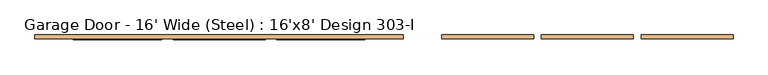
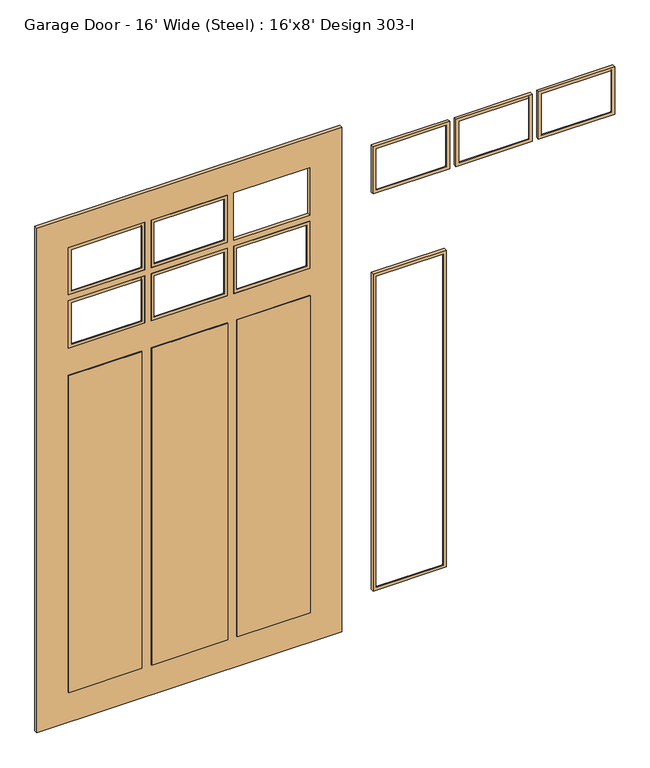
"""IFC4 building model written with IfcOpenShell, lengths in millimetres: door geometry, Garage Door - 16' Wide (Steel) : 16'x8' Design 303-I."""

from ifc_helpers import new_model, si_unit, frame, origin, place, context, project, spatial, polyline, ellipse_curve, outline, extrude, source, transform, mapped, element, save
from ifc_brep_helpers import plane_surface, cylinder_surface, advanced_brep


def garage_door_16_wide_steel_16_x8_design_303_i_b9bc2bef(model_context):
    return source(origin(), model_context, "Body", "SolidModel", [
        advanced_brep(
        [(758.8236908, -107.15625, 2003.4236908), (758.8236908, -107.15625, 1809.7513092), (749.2986908, -116.68125, 1819.2763092), (749.2986908, -116.68125, 1993.8986908), (758.8236908, -103.98125, 2003.4236908), (758.8236908, -103.98125, 1809.7513092), (761.9986908, -116.68125, 2006.5986908), (761.9986908, -116.68125, 1806.5763092), (761.9986908, -103.98125, 1806.5763092), (761.9986908, -103.98125, 2006.5986908), (460.3763092, -107.15625, 1809.7513092), (469.9013092, -116.68125, 1819.2763092), (460.3763092, -103.98125, 1809.7513092), (457.2013092, -116.68125, 1806.5763092), (457.2013092, -103.98125, 1806.5763092), (460.3763092, -107.15625, 2003.4236908), (469.9013092, -116.68125, 1993.8986908), (460.3763092, -103.98125, 2003.4236908), (457.2013092, -116.68125, 2006.5986908), (457.2013092, -103.98125, 2006.5986908)],
        [
            (0, 1),
            (1, 2, ellipse_curve(frame((758.8236908, -116.68125, 1809.7513092), z_axis=(0.7071067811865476, 0.0, 0.7071067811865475), x_axis=(-0.7071067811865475, 0.0, 0.7071067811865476)), 13.4703842, 9.525)),
            (2, 3),
            (3, 0, ellipse_curve(frame((758.8236908, -116.68125, 2003.4236908), z_axis=(0.7071067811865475, 0.0, -0.7071067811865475), x_axis=(0.7071067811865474, 0.0, 0.7071067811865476)), 13.4703842, 9.525)),
            (4, 5),
            (5, 1),
            (0, 4),
            (6, 7),
            (7, 8),
            (8, 9),
            (9, 6),
            (1, 10),
            (10, 11, ellipse_curve(frame((460.3763092, -116.68125, 1809.7513092), z_axis=(0.7071067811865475, 0.0, -0.7071067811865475), x_axis=(0.7071067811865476, 0.0, 0.7071067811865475)), 13.4703842, 9.525)),
            (11, 2),
            (5, 12),
            (12, 10),
            (7, 13),
            (13, 14),
            (14, 8),
            (10, 15),
            (15, 16, ellipse_curve(frame((460.3763092, -116.68125, 2003.4236908), z_axis=(-0.7071067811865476, 0.0, -0.7071067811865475), x_axis=(0.7071067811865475, 0.0, -0.7071067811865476)), 13.4703842, 9.525)),
            (16, 11),
            (12, 17),
            (17, 15),
            (13, 18),
            (18, 19),
            (19, 14),
            (6, 18),
            (16, 3),
            (15, 0),
            (17, 4),
            (19, 9),
        ],
        [
            cylinder_surface(frame((758.8236908, -116.68125, 2006.6), z_axis=(0.0, 0.0, 1.0), x_axis=(1.0, 0.0, 0.0)), 9.525),
            plane_surface(frame((758.8236908, -107.15625, 2003.4236908), z_axis=(-1.0, 0.0, 0.0), x_axis=(0.0, 0.0, -1.0))),
            plane_surface(frame((761.9986908, -103.98125, 2006.5986908), z_axis=(1.0, 0.0, 0.0), x_axis=(0.0, 0.0, -1.0))),
            cylinder_surface(frame((762.0, -116.68125, 1809.7513092), z_axis=(1.0, 0.0, 0.0), x_axis=(0.0, 0.0, -1.0)), 9.525),
            plane_surface(frame((758.8236908, -107.15625, 1809.7513092), z_axis=(0.0, 0.0, 1.0), x_axis=(-1.0, 0.0, 0.0))),
            plane_surface(frame((761.9986908, -103.98125, 1806.5763092), z_axis=(0.0, 0.0, -1.0), x_axis=(-1.0, 0.0, 0.0))),
            cylinder_surface(frame((460.3763092, -116.68125, 1806.575), z_axis=(0.0, 0.0, -1.0), x_axis=(-1.0, 0.0, 0.0)), 9.525),
            plane_surface(frame((460.3763092, -107.15625, 1809.7513092), z_axis=(1.0, 0.0, 0.0), x_axis=(0.0, 0.0, 1.0))),
            plane_surface(frame((457.2013092, -103.98125, 1806.5763092), z_axis=(-1.0, 0.0, 0.0), x_axis=(0.0, 0.0, 1.0))),
            plane_surface(frame((457.2013092, -116.68125, 2006.5986908), z_axis=(0.0, -1.0, 0.0), x_axis=(1.0, 0.0, 0.0))),
            cylinder_surface(frame((457.2, -116.68125, 2003.4236908), z_axis=(-1.0, 0.0, 0.0), x_axis=(0.0, 0.0, 1.0)), 9.525),
            plane_surface(frame((460.3763092, -107.15625, 2003.4236908), z_axis=(0.0, 0.0, -1.0), x_axis=(1.0, 0.0, 0.0))),
            plane_surface(frame((460.3763092, -103.98125, 2003.4236908), z_axis=(0.0, 1.0, 0.0), x_axis=(1.0, 0.0, 0.0))),
            plane_surface(frame((457.2013092, -103.98125, 2006.5986908), z_axis=(0.0, 0.0, 1.0), x_axis=(1.0, 0.0, 0.0))),
        ],
        [
            (0, [[1, 2, 3, 4]]),
            (1, [[5, 6, -1, 7]]),
            (2, [[8, 9, 10, 11]]),
            (3, [[12, 13, 14, -2]]),
            (4, [[15, 16, -12, -6]]),
            (5, [[17, 18, 19, -9]]),
            (6, [[20, 21, 22, -13]]),
            (7, [[23, 24, -20, -16]]),
            (8, [[25, 26, 27, -18]]),
            (9, [[-8, 28, -25, -17], [-3, -14, -22, 29]]),
            (10, [[30, -4, -29, -21]]),
            (11, [[31, -7, -30, -24]]),
            (12, [[-10, -19, -27, 32], [-5, -31, -23, -15]]),
            (13, [[-28, -11, -32, -26]]),
        ],
    ),
        advanced_brep(
        [(428.6276183, -107.15625, 2003.425), (428.6276183, -107.15625, 1809.7473817), (419.1026183, -116.68125, 1819.2723817), (419.1026183, -116.68125, 1993.9), (428.6276183, -103.98125, 2003.425), (428.6276183, -103.98125, 1809.7473817), (431.8026183, -116.68125, 2006.6), (431.8026183, -116.68125, 1806.5723817), (431.8026183, -103.98125, 1806.5723817), (431.8026183, -103.98125, 2006.6), (130.175, -107.15625, 1809.7473817), (139.7, -116.68125, 1819.2723817), (130.175, -103.98125, 1809.7473817), (127.0, -116.68125, 1806.5723817), (127.0, -103.98125, 1806.5723817), (130.175, -107.15625, 2003.425), (139.7, -116.68125, 1993.9), (130.175, -103.98125, 2003.425), (127.0, -116.68125, 2006.6), (127.0, -103.98125, 2006.6)],
        [
            (0, 1),
            (1, 2, ellipse_curve(frame((428.6276183, -116.68125, 1809.7473817), z_axis=(0.7071067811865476, 0.0, 0.7071067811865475), x_axis=(-0.7071067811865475, 0.0, 0.7071067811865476)), 13.4703842, 9.525)),
            (2, 3),
            (3, 0, ellipse_curve(frame((428.6276183, -116.68125, 2003.425), z_axis=(0.7071067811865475, 0.0, -0.7071067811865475), x_axis=(0.7071067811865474, 0.0, 0.7071067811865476)), 13.4703842, 9.525)),
            (4, 5),
            (5, 1),
            (0, 4),
            (6, 7),
            (7, 8),
            (8, 9),
            (9, 6),
            (1, 10),
            (10, 11, ellipse_curve(frame((130.175, -116.68125, 1809.7473817), z_axis=(0.7071067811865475, 0.0, -0.7071067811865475), x_axis=(0.7071067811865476, 0.0, 0.7071067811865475)), 13.4703842, 9.525)),
            (11, 2),
            (5, 12),
            (12, 10),
            (7, 13),
            (13, 14),
            (14, 8),
            (10, 15),
            (15, 16, ellipse_curve(frame((130.175, -116.68125, 2003.425), z_axis=(-0.7071067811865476, 0.0, -0.7071067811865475), x_axis=(0.7071067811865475, 0.0, -0.7071067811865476)), 13.4703842, 9.525)),
            (16, 11),
            (12, 17),
            (17, 15),
            (13, 18),
            (18, 19),
            (19, 14),
            (6, 18),
            (16, 3),
            (15, 0),
            (17, 4),
            (19, 9),
        ],
        [
            cylinder_surface(frame((428.6276183, -116.68125, 2006.5973817), z_axis=(0.0, 0.0, 1.0), x_axis=(1.0, 0.0, 0.0)), 9.525),
            plane_surface(frame((428.6276183, -107.15625, 2003.425), z_axis=(-1.0, 0.0, 0.0), x_axis=(0.0, 0.0, -1.0))),
            plane_surface(frame((431.8026183, -103.98125, 2006.6), z_axis=(1.0, 0.0, 0.0), x_axis=(0.0, 0.0, -1.0))),
            cylinder_surface(frame((431.8, -116.68125, 1809.7473817), z_axis=(1.0, 0.0, 0.0), x_axis=(0.0, 0.0, -1.0)), 9.525),
            plane_surface(frame((428.6276183, -107.15625, 1809.7473817), z_axis=(0.0, 0.0, 1.0), x_axis=(-1.0, 0.0, 0.0))),
            plane_surface(frame((431.8026183, -103.98125, 1806.5723817), z_axis=(0.0, 0.0, -1.0), x_axis=(-1.0, 0.0, 0.0))),
            cylinder_surface(frame((130.175, -116.68125, 1806.575), z_axis=(0.0, 0.0, -1.0), x_axis=(-1.0, 0.0, 0.0)), 9.525),
            plane_surface(frame((130.175, -107.15625, 1809.7473817), z_axis=(1.0, 0.0, 0.0), x_axis=(0.0, 0.0, 1.0))),
            plane_surface(frame((127.0, -103.98125, 1806.5723817), z_axis=(-1.0, 0.0, 0.0), x_axis=(0.0, 0.0, 1.0))),
            plane_surface(frame((127.0, -116.68125, 2006.6), z_axis=(0.0, -1.0, 0.0), x_axis=(1.0, 0.0, 0.0))),
            cylinder_surface(frame((127.0026183, -116.68125, 2003.425), z_axis=(-1.0, 0.0, 0.0), x_axis=(0.0, 0.0, 1.0)), 9.525),
            plane_surface(frame((130.175, -107.15625, 2003.425), z_axis=(0.0, 0.0, -1.0), x_axis=(1.0, 0.0, 0.0))),
            plane_surface(frame((130.175, -103.98125, 2003.425), z_axis=(0.0, 1.0, 0.0), x_axis=(1.0, 0.0, 0.0))),
            plane_surface(frame((127.0, -103.98125, 2006.6), z_axis=(0.0, 0.0, 1.0), x_axis=(1.0, 0.0, 0.0))),
        ],
        [
            (0, [[1, 2, 3, 4]]),
            (1, [[5, 6, -1, 7]]),
            (2, [[8, 9, 10, 11]]),
            (3, [[12, 13, 14, -2]]),
            (4, [[15, 16, -12, -6]]),
            (5, [[17, 18, 19, -9]]),
            (6, [[20, 21, 22, -13]]),
            (7, [[23, 24, -20, -16]]),
            (8, [[25, 26, 27, -18]]),
            (9, [[-8, 28, -25, -17], [-3, -14, -22, 29]]),
            (10, [[30, -4, -29, -21]]),
            (11, [[31, -7, -30, -24]]),
            (12, [[-10, -19, -27, 32], [-5, -31, -23, -15]]),
            (13, [[-28, -11, -32, -26]]),
        ],
    ),
        advanced_brep(
        [(1089.025, -107.15625, 1778.0), (1089.025, -107.15625, 1584.325), (1079.5, -116.68125, 1593.85), (1079.5, -116.68125, 1768.475), (1089.025, -103.98125, 1778.0), (1089.025, -103.98125, 1584.325), (1092.2, -116.68125, 1781.175), (1092.2, -116.68125, 1581.15), (1092.2, -103.98125, 1581.15), (1092.2, -103.98125, 1781.175), (790.575, -107.15625, 1584.325), (800.1, -116.68125, 1593.85), (790.575, -103.98125, 1584.325), (787.4, -116.68125, 1581.15), (787.4, -103.98125, 1581.15), (790.575, -107.15625, 1778.0), (800.1, -116.68125, 1768.475), (790.575, -103.98125, 1778.0), (787.4, -116.68125, 1781.175), (787.4, -103.98125, 1781.175)],
        [
            (0, 1),
            (1, 2, ellipse_curve(frame((1089.025, -116.68125, 1584.325), z_axis=(0.7071067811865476, 0.0, 0.7071067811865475), x_axis=(-0.7071067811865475, 0.0, 0.7071067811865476)), 13.4703842, 9.525)),
            (2, 3),
            (3, 0, ellipse_curve(frame((1089.025, -116.68125, 1778.0), z_axis=(0.7071067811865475, 0.0, -0.7071067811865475), x_axis=(0.7071067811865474, 0.0, 0.7071067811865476)), 13.4703842, 9.525)),
            (4, 5),
            (5, 1),
            (0, 4),
            (6, 7),
            (7, 8),
            (8, 9),
            (9, 6),
            (1, 10),
            (10, 11, ellipse_curve(frame((790.575, -116.68125, 1584.325), z_axis=(0.7071067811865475, 0.0, -0.7071067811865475), x_axis=(0.7071067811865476, 0.0, 0.7071067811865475)), 13.4703842, 9.525)),
            (11, 2),
            (5, 12),
            (12, 10),
            (7, 13),
            (13, 14),
            (14, 8),
            (10, 15),
            (15, 16, ellipse_curve(frame((790.575, -116.68125, 1778.0), z_axis=(-0.7071067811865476, 0.0, -0.7071067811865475), x_axis=(0.7071067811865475, 0.0, -0.7071067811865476)), 13.4703842, 9.525)),
            (16, 11),
            (12, 17),
            (17, 15),
            (13, 18),
            (18, 19),
            (19, 14),
            (6, 18),
            (16, 3),
            (15, 0),
            (17, 4),
            (19, 9),
        ],
        [
            cylinder_surface(frame((1089.025, -116.68125, 1781.175), z_axis=(0.0, 0.0, 1.0), x_axis=(1.0, 0.0, 0.0)), 9.525),
            plane_surface(frame((1089.025, -107.15625, 1778.0), z_axis=(-1.0, 0.0, 0.0), x_axis=(0.0, 0.0, -1.0))),
            plane_surface(frame((1092.2, -103.98125, 1781.175), z_axis=(1.0, 0.0, 0.0), x_axis=(0.0, 0.0, -1.0))),
            cylinder_surface(frame((1092.2, -116.68125, 1584.325), z_axis=(1.0, 0.0, 0.0), x_axis=(0.0, 0.0, -1.0)), 9.525),
            plane_surface(frame((1089.025, -107.15625, 1584.325), z_axis=(0.0, 0.0, 1.0), x_axis=(-1.0, 0.0, 0.0))),
            plane_surface(frame((1092.2, -103.98125, 1581.15), z_axis=(0.0, 0.0, -1.0), x_axis=(-1.0, 0.0, 0.0))),
            cylinder_surface(frame((790.575, -116.68125, 1581.15), z_axis=(0.0, 0.0, -1.0), x_axis=(-1.0, 0.0, 0.0)), 9.525),
            plane_surface(frame((790.575, -107.15625, 1584.325), z_axis=(1.0, 0.0, 0.0), x_axis=(0.0, 0.0, 1.0))),
            plane_surface(frame((787.4, -103.98125, 1581.15), z_axis=(-1.0, 0.0, 0.0), x_axis=(0.0, 0.0, 1.0))),
            plane_surface(frame((787.4, -116.68125, 1781.175), z_axis=(0.0, -1.0, 0.0), x_axis=(1.0, 0.0, 0.0))),
            cylinder_surface(frame((787.4, -116.68125, 1778.0), z_axis=(-1.0, 0.0, 0.0), x_axis=(0.0, 0.0, 1.0)), 9.525),
            plane_surface(frame((790.575, -107.15625, 1778.0), z_axis=(0.0, 0.0, -1.0), x_axis=(1.0, 0.0, 0.0))),
            plane_surface(frame((790.575, -103.98125, 1778.0), z_axis=(0.0, 1.0, 0.0), x_axis=(1.0, 0.0, 0.0))),
            plane_surface(frame((787.4, -103.98125, 1781.175), z_axis=(0.0, 0.0, 1.0), x_axis=(1.0, 0.0, 0.0))),
        ],
        [
            (0, [[1, 2, 3, 4]]),
            (1, [[5, 6, -1, 7]]),
            (2, [[8, 9, 10, 11]]),
            (3, [[12, 13, 14, -2]]),
            (4, [[15, 16, -12, -6]]),
            (5, [[17, 18, 19, -9]]),
            (6, [[20, 21, 22, -13]]),
            (7, [[23, 24, -20, -16]]),
            (8, [[25, 26, 27, -18]]),
            (9, [[-8, 28, -25, -17], [-3, -14, -22, 29]]),
            (10, [[30, -4, -29, -21]]),
            (11, [[31, -7, -30, -24]]),
            (12, [[-10, -19, -27, 32], [-5, -31, -23, -15]]),
            (13, [[-28, -11, -32, -26]]),
        ],
    ),
        advanced_brep(
        [(758.825, -107.15625, 1778.0), (758.825, -107.15625, 1584.325), (749.3, -116.68125, 1593.85), (749.3, -116.68125, 1768.475), (758.825, -103.98125, 1778.0), (758.825, -103.98125, 1584.325), (762.0, -116.68125, 1781.175), (762.0, -116.68125, 1581.15), (762.0, -103.98125, 1581.15), (762.0, -103.98125, 1781.175), (460.375, -107.15625, 1584.325), (469.9, -116.68125, 1593.85), (460.375, -103.98125, 1584.325), (457.2, -116.68125, 1581.15), (457.2, -103.98125, 1581.15), (460.375, -107.15625, 1778.0), (469.9, -116.68125, 1768.475), (460.375, -103.98125, 1778.0), (457.2, -116.68125, 1781.175), (457.2, -103.98125, 1781.175)],
        [
            (0, 1),
            (1, 2, ellipse_curve(frame((758.825, -116.68125, 1584.325), z_axis=(0.7071067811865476, 0.0, 0.7071067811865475), x_axis=(-0.7071067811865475, 0.0, 0.7071067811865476)), 13.4703842, 9.525)),
            (2, 3),
            (3, 0, ellipse_curve(frame((758.825, -116.68125, 1778.0), z_axis=(0.7071067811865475, 0.0, -0.7071067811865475), x_axis=(0.7071067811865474, 0.0, 0.7071067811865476)), 13.4703842, 9.525)),
            (4, 5),
            (5, 1),
            (0, 4),
            (6, 7),
            (7, 8),
            (8, 9),
            (9, 6),
            (1, 10),
            (10, 11, ellipse_curve(frame((460.375, -116.68125, 1584.325), z_axis=(0.7071067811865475, 0.0, -0.7071067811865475), x_axis=(0.7071067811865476, 0.0, 0.7071067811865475)), 13.4703842, 9.525)),
            (11, 2),
            (5, 12),
            (12, 10),
            (7, 13),
            (13, 14),
            (14, 8),
            (10, 15),
            (15, 16, ellipse_curve(frame((460.375, -116.68125, 1778.0), z_axis=(-0.7071067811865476, 0.0, -0.7071067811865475), x_axis=(0.7071067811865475, 0.0, -0.7071067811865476)), 13.4703842, 9.525)),
            (16, 11),
            (12, 17),
            (17, 15),
            (13, 18),
            (18, 19),
            (19, 14),
            (6, 18),
            (16, 3),
            (15, 0),
            (17, 4),
            (19, 9),
        ],
        [
            cylinder_surface(frame((758.825, -116.68125, 1781.175), z_axis=(0.0, 0.0, 1.0), x_axis=(1.0, 0.0, 0.0)), 9.525),
            plane_surface(frame((758.825, -107.15625, 1778.0), z_axis=(-1.0, 0.0, 0.0), x_axis=(0.0, 0.0, -1.0))),
            plane_surface(frame((762.0, -103.98125, 1781.175), z_axis=(1.0, 0.0, 0.0), x_axis=(0.0, 0.0, -1.0))),
            cylinder_surface(frame((762.0, -116.68125, 1584.325), z_axis=(1.0, 0.0, 0.0), x_axis=(0.0, 0.0, -1.0)), 9.525),
            plane_surface(frame((758.825, -107.15625, 1584.325), z_axis=(0.0, 0.0, 1.0), x_axis=(-1.0, 0.0, 0.0))),
            plane_surface(frame((762.0, -103.98125, 1581.15), z_axis=(0.0, 0.0, -1.0), x_axis=(-1.0, 0.0, 0.0))),
            cylinder_surface(frame((460.375, -116.68125, 1581.15), z_axis=(0.0, 0.0, -1.0), x_axis=(-1.0, 0.0, 0.0)), 9.525),
            plane_surface(frame((460.375, -107.15625, 1584.325), z_axis=(1.0, 0.0, 0.0), x_axis=(0.0, 0.0, 1.0))),
            plane_surface(frame((457.2, -103.98125, 1581.15), z_axis=(-1.0, 0.0, 0.0), x_axis=(0.0, 0.0, 1.0))),
            plane_surface(frame((457.2, -116.68125, 1781.175), z_axis=(0.0, -1.0, 0.0), x_axis=(1.0, 0.0, 0.0))),
            cylinder_surface(frame((457.2, -116.68125, 1778.0), z_axis=(-1.0, 0.0, 0.0), x_axis=(0.0, 0.0, 1.0)), 9.525),
            plane_surface(frame((460.375, -107.15625, 1778.0), z_axis=(0.0, 0.0, -1.0), x_axis=(1.0, 0.0, 0.0))),
            plane_surface(frame((460.375, -103.98125, 1778.0), z_axis=(0.0, 1.0, 0.0), x_axis=(1.0, 0.0, 0.0))),
            plane_surface(frame((457.2, -103.98125, 1781.175), z_axis=(0.0, 0.0, 1.0), x_axis=(1.0, 0.0, 0.0))),
        ],
        [
            (0, [[1, 2, 3, 4]]),
            (1, [[5, 6, -1, 7]]),
            (2, [[8, 9, 10, 11]]),
            (3, [[12, 13, 14, -2]]),
            (4, [[15, 16, -12, -6]]),
            (5, [[17, 18, 19, -9]]),
            (6, [[20, 21, 22, -13]]),
            (7, [[23, 24, -20, -16]]),
            (8, [[25, 26, 27, -18]]),
            (9, [[-8, 28, -25, -17], [-3, -14, -22, 29]]),
            (10, [[30, -4, -29, -21]]),
            (11, [[31, -7, -30, -24]]),
            (12, [[-10, -19, -27, 32], [-5, -31, -23, -15]]),
            (13, [[-28, -11, -32, -26]]),
        ],
    ),
        advanced_brep(
        [(428.625, -107.15625, 1778.0), (428.625, -107.15625, 1584.325), (419.1, -116.68125, 1593.85), (419.1, -116.68125, 1768.475), (428.625, -103.98125, 1778.0), (428.625, -103.98125, 1584.325), (431.8, -116.68125, 1781.175), (431.8, -116.68125, 1581.15), (431.8, -103.98125, 1581.15), (431.8, -103.98125, 1781.175), (130.175, -107.15625, 1584.325), (139.7, -116.68125, 1593.85), (130.175, -103.98125, 1584.325), (127.0, -116.68125, 1581.15), (127.0, -103.98125, 1581.15), (130.175, -107.15625, 1778.0), (139.7, -116.68125, 1768.475), (130.175, -103.98125, 1778.0), (127.0, -116.68125, 1781.175), (127.0, -103.98125, 1781.175)],
        [
            (0, 1),
            (1, 2, ellipse_curve(frame((428.625, -116.68125, 1584.325), z_axis=(0.7071067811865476, 0.0, 0.7071067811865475), x_axis=(-0.7071067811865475, 0.0, 0.7071067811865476)), 13.4703842, 9.525)),
            (2, 3),
            (3, 0, ellipse_curve(frame((428.625, -116.68125, 1778.0), z_axis=(0.7071067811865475, 0.0, -0.7071067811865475), x_axis=(0.7071067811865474, 0.0, 0.7071067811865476)), 13.4703842, 9.525)),
            (4, 5),
            (5, 1),
            (0, 4),
            (6, 7),
            (7, 8),
            (8, 9),
            (9, 6),
            (1, 10),
            (10, 11, ellipse_curve(frame((130.175, -116.68125, 1584.325), z_axis=(0.7071067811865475, 0.0, -0.7071067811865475), x_axis=(0.7071067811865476, 0.0, 0.7071067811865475)), 13.4703842, 9.525)),
            (11, 2),
            (5, 12),
            (12, 10),
            (7, 13),
            (13, 14),
            (14, 8),
            (10, 15),
            (15, 16, ellipse_curve(frame((130.175, -116.68125, 1778.0), z_axis=(-0.7071067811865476, 0.0, -0.7071067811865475), x_axis=(0.7071067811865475, 0.0, -0.7071067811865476)), 13.4703842, 9.525)),
            (16, 11),
            (12, 17),
            (17, 15),
            (13, 18),
            (18, 19),
            (19, 14),
            (6, 18),
            (16, 3),
            (15, 0),
            (17, 4),
            (19, 9),
        ],
        [
            cylinder_surface(frame((428.625, -116.68125, 1781.175), z_axis=(0.0, 0.0, 1.0), x_axis=(1.0, 0.0, 0.0)), 9.525),
            plane_surface(frame((428.625, -107.15625, 1778.0), z_axis=(-1.0, 0.0, 0.0), x_axis=(0.0, 0.0, -1.0))),
            plane_surface(frame((431.8, -103.98125, 1781.175), z_axis=(1.0, 0.0, 0.0), x_axis=(0.0, 0.0, -1.0))),
            cylinder_surface(frame((431.8, -116.68125, 1584.325), z_axis=(1.0, 0.0, 0.0), x_axis=(0.0, 0.0, -1.0)), 9.525),
            plane_surface(frame((428.625, -107.15625, 1584.325), z_axis=(0.0, 0.0, 1.0), x_axis=(-1.0, 0.0, 0.0))),
            plane_surface(frame((431.8, -103.98125, 1581.15), z_axis=(0.0, 0.0, -1.0), x_axis=(-1.0, 0.0, 0.0))),
            cylinder_surface(frame((130.175, -116.68125, 1581.15), z_axis=(0.0, 0.0, -1.0), x_axis=(-1.0, 0.0, 0.0)), 9.525),
            plane_surface(frame((130.175, -107.15625, 1584.325), z_axis=(1.0, 0.0, 0.0), x_axis=(0.0, 0.0, 1.0))),
            plane_surface(frame((127.0, -103.98125, 1581.15), z_axis=(-1.0, 0.0, 0.0), x_axis=(0.0, 0.0, 1.0))),
            plane_surface(frame((127.0, -116.68125, 1781.175), z_axis=(0.0, -1.0, 0.0), x_axis=(1.0, 0.0, 0.0))),
            cylinder_surface(frame((127.0, -116.68125, 1778.0), z_axis=(-1.0, 0.0, 0.0), x_axis=(0.0, 0.0, 1.0)), 9.525),
            plane_surface(frame((130.175, -107.15625, 1778.0), z_axis=(0.0, 0.0, -1.0), x_axis=(1.0, 0.0, 0.0))),
            plane_surface(frame((130.175, -103.98125, 1778.0), z_axis=(0.0, 1.0, 0.0), x_axis=(1.0, 0.0, 0.0))),
            plane_surface(frame((127.0, -103.98125, 1781.175), z_axis=(0.0, 0.0, 1.0), x_axis=(1.0, 0.0, 0.0))),
        ],
        [
            (0, [[1, 2, 3, 4]]),
            (1, [[5, 6, -1, 7]]),
            (2, [[8, 9, 10, 11]]),
            (3, [[12, 13, 14, -2]]),
            (4, [[15, 16, -12, -6]]),
            (5, [[17, 18, 19, -9]]),
            (6, [[20, 21, 22, -13]]),
            (7, [[23, 24, -20, -16]]),
            (8, [[25, 26, 27, -18]]),
            (9, [[-8, 28, -25, -17], [-3, -14, -22, 29]]),
            (10, [[30, -4, -29, -21]]),
            (11, [[31, -7, -30, -24]]),
            (12, [[-10, -19, -27, 32], [-5, -31, -23, -15]]),
            (13, [[-28, -11, -32, -26]]),
        ],
    ),
        advanced_brep(
        [(457.2, -103.98125, 1466.85), (457.2, -103.98125, 127.0), (457.2, -116.68125, 127.0), (457.2, -116.68125, 1466.85), (460.375, -107.15625, 1463.675), (460.375, -107.15625, 130.175), (460.375, -103.98125, 130.175), (460.375, -103.98125, 1463.675), (469.9, -116.68125, 1454.15), (469.9, -116.68125, 139.7), (762.0, -103.98125, 127.0), (762.0, -116.68125, 127.0), (758.825, -107.15625, 130.175), (758.825, -103.98125, 130.175), (749.3, -116.68125, 139.7), (762.0, -103.98125, 1466.85), (762.0, -116.68125, 1466.85), (758.825, -107.15625, 1463.675), (758.825, -103.98125, 1463.675), (749.3, -116.68125, 1454.15)],
        [
            (0, 1),
            (1, 2),
            (2, 3),
            (3, 0),
            (4, 5),
            (5, 6),
            (6, 7),
            (7, 4),
            (8, 9),
            (9, 5, ellipse_curve(frame((460.375, -116.68125, 130.175), z_axis=(-0.7071067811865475, 0.0, 0.7071067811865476), x_axis=(0.7071067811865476, 0.0, 0.7071067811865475)), 13.4703842, 9.525)),
            (4, 8, ellipse_curve(frame((460.375, -116.68125, 1463.675), z_axis=(-0.7071067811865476, 0.0, -0.7071067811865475), x_axis=(-0.7071067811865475, 0.0, 0.7071067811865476)), 13.4703842, 9.525)),
            (1, 10),
            (10, 11),
            (11, 2),
            (5, 12),
            (12, 13),
            (13, 6),
            (9, 14),
            (14, 12, ellipse_curve(frame((758.825, -116.68125, 130.175), z_axis=(-0.7071067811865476, 0.0, -0.7071067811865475), x_axis=(-0.7071067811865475, 0.0, 0.7071067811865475)), 13.4703842, 9.525)),
            (10, 15),
            (15, 16),
            (16, 11),
            (12, 17),
            (17, 18),
            (18, 13),
            (14, 19),
            (19, 17, ellipse_curve(frame((758.825, -116.68125, 1463.675), z_axis=(0.7071067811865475, 0.0, -0.7071067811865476), x_axis=(-0.7071067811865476, 0.0, -0.7071067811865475)), 13.4703842, 9.525)),
            (15, 0),
            (3, 16),
            (18, 7),
            (17, 4),
            (19, 8),
        ],
        [
            plane_surface(frame((457.2, -116.68125, 1466.85), z_axis=(-1.0, 0.0, 0.0), x_axis=(0.0, 0.0, -1.0))),
            plane_surface(frame((460.375, -103.98125, 1463.675), z_axis=(1.0, 0.0, 0.0), x_axis=(0.0, 0.0, -1.0))),
            cylinder_surface(frame((460.375, -116.68125, 1466.85), z_axis=(0.0, 0.0, 1.0), x_axis=(1.0, 0.0, 0.0)), 9.525),
            plane_surface(frame((457.2, -116.68125, 127.0), z_axis=(0.0, 0.0, -1.0), x_axis=(1.0, 0.0, 0.0))),
            plane_surface(frame((460.375, -103.98125, 130.175), z_axis=(0.0, 0.0, 1.0), x_axis=(1.0, 0.0, 0.0))),
            cylinder_surface(frame((457.2, -116.68125, 130.175), z_axis=(-1.0, 0.0, 0.0), x_axis=(0.0, 0.0, 1.0)), 9.525),
            plane_surface(frame((762.0, -116.68125, 127.0), z_axis=(1.0, 0.0, 0.0), x_axis=(0.0, 0.0, 1.0))),
            plane_surface(frame((758.825, -103.98125, 130.175), z_axis=(-1.0, 0.0, 0.0), x_axis=(0.0, 0.0, 1.0))),
            cylinder_surface(frame((758.825, -116.68125, 127.0), z_axis=(0.0, 0.0, -1.0), x_axis=(-1.0, 0.0, 0.0)), 9.525),
            plane_surface(frame((762.0, -116.68125, 1466.85), z_axis=(0.0, 0.0, 1.0), x_axis=(-1.0, 0.0, 0.0))),
            plane_surface(frame((762.0, -103.98125, 1466.85), z_axis=(0.0, 1.0, 0.0), x_axis=(-1.0, 0.0, 0.0))),
            plane_surface(frame((758.825, -103.98125, 1463.675), z_axis=(0.0, 0.0, -1.0), x_axis=(-1.0, 0.0, 0.0))),
            cylinder_surface(frame((762.0, -116.68125, 1463.675), z_axis=(1.0, 0.0, 0.0), x_axis=(0.0, 0.0, -1.0)), 9.525),
            plane_surface(frame((749.3, -116.68125, 1454.15), z_axis=(0.0, -1.0, 0.0), x_axis=(-1.0, 0.0, 0.0))),
        ],
        [
            (0, [[1, 2, 3, 4]]),
            (1, [[5, 6, 7, 8]]),
            (2, [[9, 10, -5, 11]]),
            (3, [[12, 13, 14, -2]]),
            (4, [[15, 16, 17, -6]]),
            (5, [[18, 19, -15, -10]]),
            (6, [[20, 21, 22, -13]]),
            (7, [[23, 24, 25, -16]]),
            (8, [[26, 27, -23, -19]]),
            (9, [[28, -4, 29, -21]]),
            (10, [[-1, -28, -20, -12], [-7, -17, -25, 30]]),
            (11, [[31, -8, -30, -24]]),
            (12, [[32, -11, -31, -27]]),
            (13, [[-3, -14, -22, -29], [-9, -32, -26, -18]]),
        ],
    ),
        advanced_brep(
        [(127.0, -103.98125, 1466.85), (127.0, -103.98125, 127.0), (127.0, -116.68125, 127.0), (127.0, -116.68125, 1466.85), (130.175, -107.15625, 1463.675), (130.175, -107.15625, 130.175), (130.175, -103.98125, 130.175), (130.175, -103.98125, 1463.675), (139.7, -116.68125, 1454.15), (139.7, -116.68125, 139.7), (419.1, -103.98125, 127.0), (419.1, -116.68125, 127.0), (415.925, -107.15625, 130.175), (415.925, -103.98125, 130.175), (406.4, -116.68125, 139.7), (419.1, -103.98125, 1466.85), (419.1, -116.68125, 1466.85), (415.925, -107.15625, 1463.675), (415.925, -103.98125, 1463.675), (406.4, -116.68125, 1454.15)],
        [
            (0, 1),
            (1, 2),
            (2, 3),
            (3, 0),
            (4, 5),
            (5, 6),
            (6, 7),
            (7, 4),
            (8, 9),
            (9, 5, ellipse_curve(frame((130.175, -116.68125, 130.175), z_axis=(-0.7071067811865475, 0.0, 0.7071067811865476), x_axis=(0.7071067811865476, 0.0, 0.7071067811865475)), 13.4703842, 9.525)),
            (4, 8, ellipse_curve(frame((130.175, -116.68125, 1463.675), z_axis=(-0.7071067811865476, 0.0, -0.7071067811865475), x_axis=(-0.7071067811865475, 0.0, 0.7071067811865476)), 13.4703842, 9.525)),
            (1, 10),
            (10, 11),
            (11, 2),
            (5, 12),
            (12, 13),
            (13, 6),
            (9, 14),
            (14, 12, ellipse_curve(frame((415.925, -116.68125, 130.175), z_axis=(-0.7071067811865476, 0.0, -0.7071067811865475), x_axis=(-0.7071067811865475, 0.0, 0.7071067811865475)), 13.4703842, 9.525)),
            (10, 15),
            (15, 16),
            (16, 11),
            (12, 17),
            (17, 18),
            (18, 13),
            (14, 19),
            (19, 17, ellipse_curve(frame((415.925, -116.68125, 1463.675), z_axis=(0.7071067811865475, 0.0, -0.7071067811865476), x_axis=(-0.7071067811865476, 0.0, -0.7071067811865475)), 13.4703842, 9.525)),
            (15, 0),
            (3, 16),
            (18, 7),
            (17, 4),
            (19, 8),
        ],
        [
            plane_surface(frame((127.0, -116.68125, 1466.85), z_axis=(-1.0, 0.0, 0.0), x_axis=(0.0, 0.0, -1.0))),
            plane_surface(frame((130.175, -103.98125, 1463.675), z_axis=(1.0, 0.0, 0.0), x_axis=(0.0, 0.0, -1.0))),
            cylinder_surface(frame((130.175, -116.68125, 1466.85), z_axis=(0.0, 0.0, 1.0), x_axis=(1.0, 0.0, 0.0)), 9.525),
            plane_surface(frame((127.0, -116.68125, 127.0), z_axis=(0.0, 0.0, -1.0), x_axis=(1.0, 0.0, 0.0))),
            plane_surface(frame((130.175, -103.98125, 130.175), z_axis=(0.0, 0.0, 1.0), x_axis=(1.0, 0.0, 0.0))),
            cylinder_surface(frame((127.0, -116.68125, 130.175), z_axis=(-1.0, 0.0, 0.0), x_axis=(0.0, 0.0, 1.0)), 9.525),
            plane_surface(frame((419.1, -116.68125, 127.0), z_axis=(1.0, 0.0, 0.0), x_axis=(0.0, 0.0, 1.0))),
            plane_surface(frame((415.925, -103.98125, 130.175), z_axis=(-1.0, 0.0, 0.0), x_axis=(0.0, 0.0, 1.0))),
            cylinder_surface(frame((415.925, -116.68125, 127.0), z_axis=(0.0, 0.0, -1.0), x_axis=(-1.0, 0.0, 0.0)), 9.525),
            plane_surface(frame((419.1, -116.68125, 1466.85), z_axis=(0.0, 0.0, 1.0), x_axis=(-1.0, 0.0, 0.0))),
            plane_surface(frame((419.1, -103.98125, 1466.85), z_axis=(0.0, 1.0, 0.0), x_axis=(-1.0, 0.0, 0.0))),
            plane_surface(frame((415.925, -103.98125, 1463.675), z_axis=(0.0, 0.0, -1.0), x_axis=(-1.0, 0.0, 0.0))),
            cylinder_surface(frame((419.1, -116.68125, 1463.675), z_axis=(1.0, 0.0, 0.0), x_axis=(0.0, 0.0, -1.0)), 9.525),
            plane_surface(frame((406.4, -116.68125, 1454.15), z_axis=(0.0, -1.0, 0.0), x_axis=(-1.0, 0.0, 0.0))),
        ],
        [
            (0, [[1, 2, 3, 4]]),
            (1, [[5, 6, 7, 8]]),
            (2, [[9, 10, -5, 11]]),
            (3, [[12, 13, 14, -2]]),
            (4, [[15, 16, 17, -6]]),
            (5, [[18, 19, -15, -10]]),
            (6, [[20, 21, 22, -13]]),
            (7, [[23, 24, 25, -16]]),
            (8, [[26, 27, -23, -19]]),
            (9, [[28, -4, 29, -21]]),
            (10, [[-1, -28, -20, -12], [-7, -17, -25, 30]]),
            (11, [[31, -8, -30, -24]]),
            (12, [[32, -11, -31, -27]]),
            (13, [[-3, -14, -22, -29], [-9, -32, -26, -18]]),
        ],
    ),
        extrude(outline(polyline([(419.1, -116.68125), (419.1, -119.85625), (127.0, -119.85625), (127.0, -116.68125), (419.1, -116.68125)])), frame((0.0, 0.0, 127.0), z_axis=(0.0, 0.0, 1.0), x_axis=(1.0, 0.0, 0.0)), (0.0, 0.0, 1.0), 1339.85),
        extrude(outline(polyline([(1092.2, -116.68125), (1092.2, -119.85625), (800.1, -119.85625), (800.1, -116.68125), (1092.2, -116.68125)])), frame((0.0, 0.0, 127.0), z_axis=(0.0, 0.0, 1.0), x_axis=(1.0, 0.0, 0.0)), (0.0, 0.0, 1.0), 1339.85),
        extrude(outline(polyline([(762.0, -116.68125), (762.0, -119.85625), (457.2, -119.85625), (457.2, -116.68125), (762.0, -116.68125)])), frame((0.0, 0.0, 127.0), z_axis=(0.0, 0.0, 1.0), x_axis=(1.0, 0.0, 0.0)), (0.0, 0.0, 1.0), 1339.85),
        extrude(outline(polyline([(2133.6, 1219.2), (2133.6, 0.0), (0.0, 0.0), (0.0, 1219.2), (2133.6, 1219.2)]), holes=[polyline([(1806.575, 127.0), (2006.6, 127.0), (2006.6, 431.8), (1806.575, 431.8), (1806.575, 127.0)]), polyline([(1781.175, 127.0), (1781.175, 431.8), (1581.15, 431.8), (1581.15, 127.0), (1781.175, 127.0)]), polyline([(1806.575, 457.2), (2006.6, 457.2), (2006.6, 762.0), (1806.575, 762.0), (1806.575, 457.2)]), polyline([(1581.15, 457.2), (1781.175, 457.2), (1781.175, 762.0), (1581.15, 762.0), (1581.15, 457.2)]), polyline([(1806.575, 787.4), (2006.6, 787.4), (2006.6, 1092.2), (1806.575, 1092.2), (1806.575, 787.4)]), polyline([(1581.15, 787.4), (1781.175, 787.4), (1781.175, 1092.2), (1581.15, 1092.2), (1581.15, 787.4)]), polyline([(1466.85, 127.0), (1466.85, 419.1), (127.0, 419.1), (127.0, 127.0), (1466.85, 127.0)]), polyline([(127.0, 1092.2), (127.0, 800.1), (1466.85, 800.1), (1466.85, 1092.2), (127.0, 1092.2)]), polyline([(127.0, 457.2), (1466.85, 457.2), (1466.85, 762.0), (127.0, 762.0), (127.0, 457.2)])]), frame((0.0, -116.68125, 0.0), z_axis=(0.0, 1.0, 0.0), x_axis=(0.0, 0.0, 1.0)), (0.0, 0.0, 1.0), 12.7),
        advanced_brep(
        [(1349.375, -107.15625, 1463.675), (1358.9, -116.68125, 1454.15), (1358.9, -116.68125, 139.7), (1349.375, -107.15625, 130.175), (1349.375, -103.98125, 1463.675), (1349.375, -103.98125, 130.175), (1346.2, -116.68125, 1466.85), (1346.2, -103.98125, 1466.85), (1346.2, -103.98125, 127.0), (1346.2, -116.68125, 127.0), (1625.6, -116.68125, 139.7), (1635.125, -107.15625, 130.175), (1635.125, -103.98125, 130.175), (1638.3, -103.98125, 127.0), (1638.3, -116.68125, 127.0), (1625.6, -116.68125, 1454.15), (1635.125, -107.15625, 1463.675), (1635.125, -103.98125, 1463.675), (1638.3, -103.98125, 1466.85), (1638.3, -116.68125, 1466.85)],
        [
            (0, 1, ellipse_curve(frame((1349.375, -116.68125, 1463.675), z_axis=(-0.7071067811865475, 0.0, -0.7071067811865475), x_axis=(-0.7071067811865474, 0.0, 0.7071067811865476)), 13.4703842, 9.525)),
            (1, 2),
            (2, 3, ellipse_curve(frame((1349.375, -116.68125, 130.175), z_axis=(-0.7071067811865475, 0.0, 0.7071067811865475), x_axis=(0.7071067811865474, 0.0, 0.7071067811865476)), 13.4703842, 9.525)),
            (3, 0),
            (4, 0),
            (3, 5),
            (5, 4),
            (6, 7),
            (7, 8),
            (8, 9),
            (9, 6),
            (2, 10),
            (10, 11, ellipse_curve(frame((1635.125, -116.68125, 130.175), z_axis=(-0.7071067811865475, 0.0, -0.7071067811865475), x_axis=(-0.7071067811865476, 0.0, 0.7071067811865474)), 13.4703842, 9.525)),
            (11, 3),
            (11, 12),
            (12, 5),
            (8, 13),
            (13, 14),
            (14, 9),
            (10, 15),
            (15, 16, ellipse_curve(frame((1635.125, -116.68125, 1463.675), z_axis=(0.7071067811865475, 0.0, -0.7071067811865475), x_axis=(-0.7071067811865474, 0.0, -0.7071067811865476)), 13.4703842, 9.525)),
            (16, 11),
            (16, 17),
            (17, 12),
            (13, 18),
            (18, 19),
            (19, 14),
            (19, 6),
            (1, 15),
            (0, 16),
            (4, 17),
            (7, 18),
        ],
        [
            cylinder_surface(frame((1349.375, -116.68125, 1466.85), z_axis=(0.0, 0.0, 1.0), x_axis=(-1.0, 0.0, 0.0)), 9.525),
            plane_surface(frame((1349.375, -107.15625, 1463.675), z_axis=(1.0, 0.0, 0.0), x_axis=(0.0, 0.0, -1.0))),
            plane_surface(frame((1346.2, -103.98125, 1466.85), z_axis=(-1.0, 0.0, 0.0), x_axis=(0.0, 0.0, -1.0))),
            cylinder_surface(frame((1346.2, -116.68125, 130.175), z_axis=(-1.0, 0.0, 0.0), x_axis=(0.0, 0.0, -1.0)), 9.525),
            plane_surface(frame((1349.375, -107.15625, 130.175), z_axis=(0.0, 0.0, 1.0), x_axis=(1.0, 0.0, 0.0))),
            plane_surface(frame((1346.2, -103.98125, 127.0), z_axis=(0.0, 0.0, -1.0), x_axis=(1.0, 0.0, 0.0))),
            cylinder_surface(frame((1635.125, -116.68125, 127.0), z_axis=(0.0, 0.0, -1.0), x_axis=(1.0, 0.0, 0.0)), 9.525),
            plane_surface(frame((1635.125, -107.15625, 130.175), z_axis=(-1.0, 0.0, 0.0), x_axis=(0.0, 0.0, 1.0))),
            plane_surface(frame((1638.3, -103.98125, 127.0), z_axis=(1.0, 0.0, 0.0), x_axis=(0.0, 0.0, 1.0))),
            plane_surface(frame((1638.3, -116.68125, 1466.85), z_axis=(0.0, -1.0, 0.0), x_axis=(-1.0, 0.0, 0.0))),
            cylinder_surface(frame((1638.3, -116.68125, 1463.675), z_axis=(1.0, 0.0, 0.0), x_axis=(0.0, 0.0, 1.0)), 9.525),
            plane_surface(frame((1635.125, -107.15625, 1463.675), z_axis=(0.0, 0.0, -1.0), x_axis=(-1.0, 0.0, 0.0))),
            plane_surface(frame((1635.125, -103.98125, 1463.675), z_axis=(0.0, 1.0, 0.0), x_axis=(-1.0, 0.0, 0.0))),
            plane_surface(frame((1638.3, -103.98125, 1466.85), z_axis=(0.0, 0.0, 1.0), x_axis=(-1.0, 0.0, 0.0))),
        ],
        [
            (0, [[1, 2, 3, 4]]),
            (1, [[5, -4, 6, 7]]),
            (2, [[8, 9, 10, 11]]),
            (3, [[-3, 12, 13, 14]]),
            (4, [[-6, -14, 15, 16]]),
            (5, [[-10, 17, 18, 19]]),
            (6, [[-13, 20, 21, 22]]),
            (7, [[-15, -22, 23, 24]]),
            (8, [[-18, 25, 26, 27]]),
            (9, [[-19, -27, 28, -11], [29, -20, -12, -2]]),
            (10, [[-21, -29, -1, 30]]),
            (11, [[-23, -30, -5, 31]]),
            (12, [[32, -25, -17, -9], [-16, -24, -31, -7]]),
            (13, [[-26, -32, -8, -28]]),
        ],
    ),
        advanced_brep(
        [(1349.3763092, -107.15625, 2003.4236908), (1358.9013092, -116.68125, 1993.8986908), (1358.9013092, -116.68125, 1819.2736908), (1349.3763092, -107.15625, 1809.7486908), (1349.3763092, -103.98125, 2003.4236908), (1349.3763092, -103.98125, 1809.7486908), (1346.2026183, -116.68125, 2006.5973817), (1346.2026183, -103.98125, 2006.5973817), (1346.2026183, -103.98125, 1806.575), (1346.2026183, -116.68125, 1806.575), (1638.3013092, -116.68125, 1819.2736908), (1647.8263092, -107.15625, 1809.7486908), (1647.8263092, -103.98125, 1809.7486908), (1651.0, -103.98125, 1806.575), (1651.0, -116.68125, 1806.575), (1638.3013092, -116.68125, 1993.8986908), (1647.8263092, -107.15625, 2003.4236908), (1647.8263092, -103.98125, 2003.4236908), (1651.0, -103.98125, 2006.5973817), (1651.0, -116.68125, 2006.5973817)],
        [
            (0, 1, ellipse_curve(frame((1349.3763092, -116.68125, 2003.4236908), z_axis=(-0.7071067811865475, 0.0, -0.7071067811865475), x_axis=(-0.7071067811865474, 0.0, 0.7071067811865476)), 13.4703842, 9.525)),
            (1, 2),
            (2, 3, ellipse_curve(frame((1349.3763092, -116.68125, 1809.7486908), z_axis=(-0.7071067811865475, 0.0, 0.7071067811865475), x_axis=(0.7071067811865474, 0.0, 0.7071067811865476)), 13.4703842, 9.525)),
            (3, 0),
            (4, 0),
            (3, 5),
            (5, 4),
            (6, 7),
            (7, 8),
            (8, 9),
            (9, 6),
            (2, 10),
            (10, 11, ellipse_curve(frame((1647.8263092, -116.68125, 1809.7486908), z_axis=(-0.7071067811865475, 0.0, -0.7071067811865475), x_axis=(-0.7071067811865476, 0.0, 0.7071067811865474)), 13.4703842, 9.525)),
            (11, 3),
            (11, 12),
            (12, 5),
            (8, 13),
            (13, 14),
            (14, 9),
            (10, 15),
            (15, 16, ellipse_curve(frame((1647.8263092, -116.68125, 2003.4236908), z_axis=(0.7071067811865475, 0.0, -0.7071067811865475), x_axis=(-0.7071067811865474, 0.0, -0.7071067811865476)), 13.4703842, 9.525)),
            (16, 11),
            (16, 17),
            (17, 12),
            (13, 18),
            (18, 19),
            (19, 14),
            (19, 6),
            (1, 15),
            (0, 16),
            (4, 17),
            (7, 18),
        ],
        [
            cylinder_surface(frame((1349.3763092, -116.68125, 2006.5973817), z_axis=(0.0, 0.0, 1.0), x_axis=(-1.0, 0.0, 0.0)), 9.525),
            plane_surface(frame((1349.3763092, -107.15625, 2003.4236908), z_axis=(1.0, 0.0, 0.0), x_axis=(0.0, 0.0, -1.0))),
            plane_surface(frame((1346.2026183, -103.98125, 2006.5973817), z_axis=(-1.0, 0.0, 0.0), x_axis=(0.0, 0.0, -1.0))),
            cylinder_surface(frame((1346.2026183, -116.68125, 1809.7486908), z_axis=(-1.0, 0.0, 0.0), x_axis=(0.0, 0.0, -1.0)), 9.525),
            plane_surface(frame((1349.3763092, -107.15625, 1809.7486908), z_axis=(0.0, 0.0, 1.0), x_axis=(1.0, 0.0, 0.0))),
            plane_surface(frame((1346.2026183, -103.98125, 1806.575), z_axis=(0.0, 0.0, -1.0), x_axis=(1.0, 0.0, 0.0))),
            cylinder_surface(frame((1647.8263092, -116.68125, 1806.575), z_axis=(0.0, 0.0, -1.0), x_axis=(1.0, 0.0, 0.0)), 9.525),
            plane_surface(frame((1647.8263092, -107.15625, 1809.7486908), z_axis=(-1.0, 0.0, 0.0), x_axis=(0.0, 0.0, 1.0))),
            plane_surface(frame((1651.0, -103.98125, 1806.575), z_axis=(1.0, 0.0, 0.0), x_axis=(0.0, 0.0, 1.0))),
            plane_surface(frame((1651.0, -116.68125, 2006.5973817), z_axis=(0.0, -1.0, 0.0), x_axis=(-1.0, 0.0, 0.0))),
            cylinder_surface(frame((1651.0, -116.68125, 2003.4236908), z_axis=(1.0, 0.0, 0.0), x_axis=(0.0, 0.0, 1.0)), 9.525),
            plane_surface(frame((1647.8263092, -107.15625, 2003.4236908), z_axis=(0.0, 0.0, -1.0), x_axis=(-1.0, 0.0, 0.0))),
            plane_surface(frame((1647.8263092, -103.98125, 2003.4236908), z_axis=(0.0, 1.0, 0.0), x_axis=(-1.0, 0.0, 0.0))),
            plane_surface(frame((1651.0, -103.98125, 2006.5973817), z_axis=(0.0, 0.0, 1.0), x_axis=(-1.0, 0.0, 0.0))),
        ],
        [
            (0, [[1, 2, 3, 4]]),
            (1, [[5, -4, 6, 7]]),
            (2, [[8, 9, 10, 11]]),
            (3, [[-3, 12, 13, 14]]),
            (4, [[-6, -14, 15, 16]]),
            (5, [[-10, 17, 18, 19]]),
            (6, [[-13, 20, 21, 22]]),
            (7, [[-15, -22, 23, 24]]),
            (8, [[-18, 25, 26, 27]]),
            (9, [[-19, -27, 28, -11], [29, -20, -12, -2]]),
            (10, [[-21, -29, -1, 30]]),
            (11, [[-23, -30, -5, 31]]),
            (12, [[32, -25, -17, -9], [-16, -24, -31, -7]]),
            (13, [[-26, -32, -8, -28]]),
        ],
    ),
        advanced_brep(
        [(1679.5763092, -107.15625, 2003.4236908), (1689.1013092, -116.68125, 1993.8986908), (1689.1013092, -116.68125, 1819.2763092), (1679.5763092, -107.15625, 1809.7513092), (1679.5763092, -103.98125, 2003.4236908), (1679.5763092, -103.98125, 1809.7513092), (1676.4013092, -116.68125, 2006.5986908), (1676.4013092, -103.98125, 2006.5986908), (1676.4013092, -103.98125, 1806.5763092), (1676.4013092, -116.68125, 1806.5763092), (1968.4986908, -116.68125, 1819.2763092), (1978.0236908, -107.15625, 1809.7513092), (1978.0236908, -103.98125, 1809.7513092), (1981.1986908, -103.98125, 1806.5763092), (1981.1986908, -116.68125, 1806.5763092), (1968.4986908, -116.68125, 1993.8986908), (1978.0236908, -107.15625, 2003.4236908), (1978.0236908, -103.98125, 2003.4236908), (1981.1986908, -103.98125, 2006.5986908), (1981.1986908, -116.68125, 2006.5986908)],
        [
            (0, 1, ellipse_curve(frame((1679.5763092, -116.68125, 2003.4236908), z_axis=(-0.7071067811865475, 0.0, -0.7071067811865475), x_axis=(-0.7071067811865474, 0.0, 0.7071067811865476)), 13.4703842, 9.525)),
            (1, 2),
            (2, 3, ellipse_curve(frame((1679.5763092, -116.68125, 1809.7513092), z_axis=(-0.7071067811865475, 0.0, 0.7071067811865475), x_axis=(0.7071067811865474, 0.0, 0.7071067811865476)), 13.4703842, 9.525)),
            (3, 0),
            (4, 0),
            (3, 5),
            (5, 4),
            (6, 7),
            (7, 8),
            (8, 9),
            (9, 6),
            (2, 10),
            (10, 11, ellipse_curve(frame((1978.0236908, -116.68125, 1809.7513092), z_axis=(-0.7071067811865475, 0.0, -0.7071067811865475), x_axis=(-0.7071067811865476, 0.0, 0.7071067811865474)), 13.4703842, 9.525)),
            (11, 3),
            (11, 12),
            (12, 5),
            (8, 13),
            (13, 14),
            (14, 9),
            (10, 15),
            (15, 16, ellipse_curve(frame((1978.0236908, -116.68125, 2003.4236908), z_axis=(0.7071067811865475, 0.0, -0.7071067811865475), x_axis=(-0.7071067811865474, 0.0, -0.7071067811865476)), 13.4703842, 9.525)),
            (16, 11),
            (16, 17),
            (17, 12),
            (13, 18),
            (18, 19),
            (19, 14),
            (19, 6),
            (1, 15),
            (0, 16),
            (4, 17),
            (7, 18),
        ],
        [
            cylinder_surface(frame((1679.5763092, -116.68125, 2006.6), z_axis=(0.0, 0.0, 1.0), x_axis=(-1.0, 0.0, 0.0)), 9.525),
            plane_surface(frame((1679.5763092, -107.15625, 2003.4236908), z_axis=(1.0, 0.0, 0.0), x_axis=(0.0, 0.0, -1.0))),
            plane_surface(frame((1676.4013092, -103.98125, 2006.5986908), z_axis=(-1.0, 0.0, 0.0), x_axis=(0.0, 0.0, -1.0))),
            cylinder_surface(frame((1676.4, -116.68125, 1809.7513092), z_axis=(-1.0, 0.0, 0.0), x_axis=(0.0, 0.0, -1.0)), 9.525),
            plane_surface(frame((1679.5763092, -107.15625, 1809.7513092), z_axis=(0.0, 0.0, 1.0), x_axis=(1.0, 0.0, 0.0))),
            plane_surface(frame((1676.4013092, -103.98125, 1806.5763092), z_axis=(0.0, 0.0, -1.0), x_axis=(1.0, 0.0, 0.0))),
            cylinder_surface(frame((1978.0236908, -116.68125, 1806.575), z_axis=(0.0, 0.0, -1.0), x_axis=(1.0, 0.0, 0.0)), 9.525),
            plane_surface(frame((1978.0236908, -107.15625, 1809.7513092), z_axis=(-1.0, 0.0, 0.0), x_axis=(0.0, 0.0, 1.0))),
            plane_surface(frame((1981.1986908, -103.98125, 1806.5763092), z_axis=(1.0, 0.0, 0.0), x_axis=(0.0, 0.0, 1.0))),
            plane_surface(frame((1981.1986908, -116.68125, 2006.5986908), z_axis=(0.0, -1.0, 0.0), x_axis=(-1.0, 0.0, 0.0))),
            cylinder_surface(frame((1981.2, -116.68125, 2003.4236908), z_axis=(1.0, 0.0, 0.0), x_axis=(0.0, 0.0, 1.0)), 9.525),
            plane_surface(frame((1978.0236908, -107.15625, 2003.4236908), z_axis=(0.0, 0.0, -1.0), x_axis=(-1.0, 0.0, 0.0))),
            plane_surface(frame((1978.0236908, -103.98125, 2003.4236908), z_axis=(0.0, 1.0, 0.0), x_axis=(-1.0, 0.0, 0.0))),
            plane_surface(frame((1981.1986908, -103.98125, 2006.5986908), z_axis=(0.0, 0.0, 1.0), x_axis=(-1.0, 0.0, 0.0))),
        ],
        [
            (0, [[1, 2, 3, 4]]),
            (1, [[5, -4, 6, 7]]),
            (2, [[8, 9, 10, 11]]),
            (3, [[-3, 12, 13, 14]]),
            (4, [[-6, -14, 15, 16]]),
            (5, [[-10, 17, 18, 19]]),
            (6, [[-13, 20, 21, 22]]),
            (7, [[-15, -22, 23, 24]]),
            (8, [[-18, 25, 26, 27]]),
            (9, [[-19, -27, 28, -11], [29, -20, -12, -2]]),
            (10, [[-21, -29, -1, 30]]),
            (11, [[-23, -30, -5, 31]]),
            (12, [[32, -25, -17, -9], [-16, -24, -31, -7]]),
            (13, [[-26, -32, -8, -28]]),
        ],
    ),
        advanced_brep(
        [(2009.7723817, -107.15625, 2003.425), (2019.2973817, -116.68125, 1993.9), (2019.2973817, -116.68125, 1819.2723817), (2009.7723817, -107.15625, 1809.7473817), (2009.7723817, -103.98125, 2003.425), (2009.7723817, -103.98125, 1809.7473817), (2006.5973817, -116.68125, 2006.6), (2006.5973817, -103.98125, 2006.6), (2006.5973817, -103.98125, 1806.5723817), (2006.5973817, -116.68125, 1806.5723817), (2298.7, -116.68125, 1819.2723817), (2308.225, -107.15625, 1809.7473817), (2308.225, -103.98125, 1809.7473817), (2311.4, -103.98125, 1806.5723817), (2311.4, -116.68125, 1806.5723817), (2298.7, -116.68125, 1993.9), (2308.225, -107.15625, 2003.425), (2308.225, -103.98125, 2003.425), (2311.4, -103.98125, 2006.6), (2311.4, -116.68125, 2006.6)],
        [
            (0, 1, ellipse_curve(frame((2009.7723817, -116.68125, 2003.425), z_axis=(-0.7071067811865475, 0.0, -0.7071067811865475), x_axis=(-0.7071067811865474, 0.0, 0.7071067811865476)), 13.4703842, 9.525)),
            (1, 2),
            (2, 3, ellipse_curve(frame((2009.7723817, -116.68125, 1809.7473817), z_axis=(-0.7071067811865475, 0.0, 0.7071067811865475), x_axis=(0.7071067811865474, 0.0, 0.7071067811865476)), 13.4703842, 9.525)),
            (3, 0),
            (4, 0),
            (3, 5),
            (5, 4),
            (6, 7),
            (7, 8),
            (8, 9),
            (9, 6),
            (2, 10),
            (10, 11, ellipse_curve(frame((2308.225, -116.68125, 1809.7473817), z_axis=(-0.7071067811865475, 0.0, -0.7071067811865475), x_axis=(-0.7071067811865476, 0.0, 0.7071067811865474)), 13.4703842, 9.525)),
            (11, 3),
            (11, 12),
            (12, 5),
            (8, 13),
            (13, 14),
            (14, 9),
            (10, 15),
            (15, 16, ellipse_curve(frame((2308.225, -116.68125, 2003.425), z_axis=(0.7071067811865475, 0.0, -0.7071067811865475), x_axis=(-0.7071067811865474, 0.0, -0.7071067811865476)), 13.4703842, 9.525)),
            (16, 11),
            (16, 17),
            (17, 12),
            (13, 18),
            (18, 19),
            (19, 14),
            (19, 6),
            (1, 15),
            (0, 16),
            (4, 17),
            (7, 18),
        ],
        [
            cylinder_surface(frame((2009.7723817, -116.68125, 2006.5973817), z_axis=(0.0, 0.0, 1.0), x_axis=(-1.0, 0.0, 0.0)), 9.525),
            plane_surface(frame((2009.7723817, -107.15625, 2003.425), z_axis=(1.0, 0.0, 0.0), x_axis=(0.0, 0.0, -1.0))),
            plane_surface(frame((2006.5973817, -103.98125, 2006.6), z_axis=(-1.0, 0.0, 0.0), x_axis=(0.0, 0.0, -1.0))),
            cylinder_surface(frame((2006.6, -116.68125, 1809.7473817), z_axis=(-1.0, 0.0, 0.0), x_axis=(0.0, 0.0, -1.0)), 9.525),
            plane_surface(frame((2009.7723817, -107.15625, 1809.7473817), z_axis=(0.0, 0.0, 1.0), x_axis=(1.0, 0.0, 0.0))),
            plane_surface(frame((2006.5973817, -103.98125, 1806.5723817), z_axis=(0.0, 0.0, -1.0), x_axis=(1.0, 0.0, 0.0))),
            cylinder_surface(frame((2308.225, -116.68125, 1806.575), z_axis=(0.0, 0.0, -1.0), x_axis=(1.0, 0.0, 0.0)), 9.525),
            plane_surface(frame((2308.225, -107.15625, 1809.7473817), z_axis=(-1.0, 0.0, 0.0), x_axis=(0.0, 0.0, 1.0))),
            plane_surface(frame((2311.4, -103.98125, 1806.5723817), z_axis=(1.0, 0.0, 0.0), x_axis=(0.0, 0.0, 1.0))),
            plane_surface(frame((2311.4, -116.68125, 2006.6), z_axis=(0.0, -1.0, 0.0), x_axis=(-1.0, 0.0, 0.0))),
            cylinder_surface(frame((2311.3973817, -116.68125, 2003.425), z_axis=(1.0, 0.0, 0.0), x_axis=(0.0, 0.0, 1.0)), 9.525),
            plane_surface(frame((2308.225, -107.15625, 2003.425), z_axis=(0.0, 0.0, -1.0), x_axis=(-1.0, 0.0, 0.0))),
            plane_surface(frame((2308.225, -103.98125, 2003.425), z_axis=(0.0, 1.0, 0.0), x_axis=(-1.0, 0.0, 0.0))),
            plane_surface(frame((2311.4, -103.98125, 2006.6), z_axis=(0.0, 0.0, 1.0), x_axis=(-1.0, 0.0, 0.0))),
        ],
        [
            (0, [[1, 2, 3, 4]]),
            (1, [[5, -4, 6, 7]]),
            (2, [[8, 9, 10, 11]]),
            (3, [[-3, 12, 13, 14]]),
            (4, [[-6, -14, 15, 16]]),
            (5, [[-10, 17, 18, 19]]),
            (6, [[-13, 20, 21, 22]]),
            (7, [[-15, -22, 23, 24]]),
            (8, [[-18, 25, 26, 27]]),
            (9, [[-19, -27, 28, -11], [29, -20, -12, -2]]),
            (10, [[-21, -29, -1, 30]]),
            (11, [[-23, -30, -5, 31]]),
            (12, [[32, -25, -17, -9], [-16, -24, -31, -7]]),
            (13, [[-26, -32, -8, -28]]),
        ],
    ),
    ])


if __name__ == "__main__":
    model = new_model("IFC4")
    model_context = context("Model", 3, world=origin())
    ifc_project = project(units=[si_unit("LENGTHUNIT", "METRE", prefix="MILLI")], contexts=[model_context])
    site = spatial("IfcSite", under=ifc_project)
    building = spatial("IfcBuilding", under=site)
    placement = place(None, origin())
    garage_door_16_wide_steel_16_x8_design_303_i_shape = garage_door_16_wide_steel_16_x8_design_303_i_b9bc2bef(model_context)
    element("IfcDoor", 1, ObjectType="Garage Door - 16' Wide (Steel) : 16'x8' Design 303-I", at=placement, inside=building, context=model_context, shape_type="MappedRepresentation", body=[
        mapped(garage_door_16_wide_steel_16_x8_design_303_i_shape, transform((0.0, 0.0, 0.0), x_axis=(1.0, 0.0, 0.0), y_axis=(0.0, 1.0, 0.0), z_axis=(0.0, 0.0, 1.0))),
    ])
    save(model, "model.ifc")
